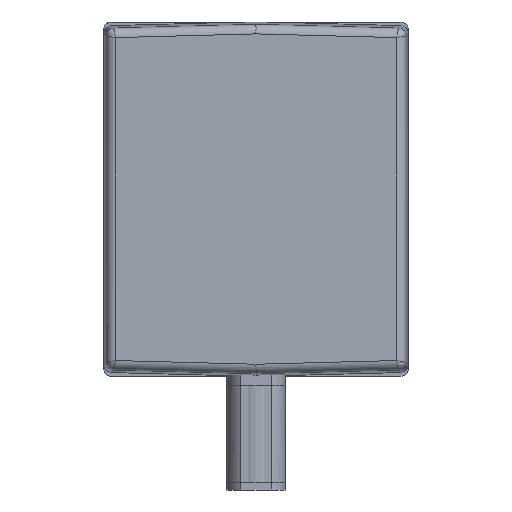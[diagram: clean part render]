
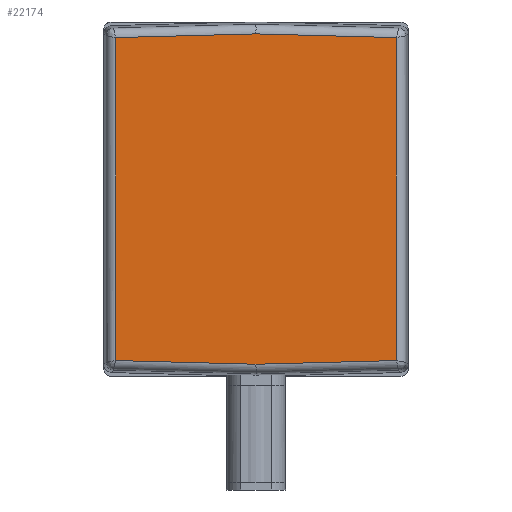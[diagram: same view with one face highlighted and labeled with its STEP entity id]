
A CAD part, front view. The second image highlights one B-rep face of the part: STEP entity #22174.
In plain terms, the highlighted planar face has unit normal (0, -1, 0).
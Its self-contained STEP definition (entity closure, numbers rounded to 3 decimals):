
#7335=DIRECTION('',(0.,0.,-1.));
#7336=VECTOR('',#7335,84.811);
#7337=CARTESIAN_POINT('',(-36.872,0.,42.405));
#7338=LINE('',#7337,#7336);
#7342=DIRECTION('',(-1.,0.,-0.026));
#7343=VECTOR('',#7342,36.885);
#7344=CARTESIAN_POINT('',(0.,0.,43.371));
#7345=LINE('',#7344,#7343);
#7349=DIRECTION('',(-1.,0.,0.026));
#7350=VECTOR('',#7349,36.885);
#7351=CARTESIAN_POINT('',(36.872,0.,42.405));
#7352=LINE('',#7351,#7350);
#7356=DIRECTION('',(0.,0.,1.));
#7357=VECTOR('',#7356,84.811);
#7358=CARTESIAN_POINT('',(36.872,0.,-42.405));
#7359=LINE('',#7358,#7357);
#7363=DIRECTION('',(1.,0.,0.026));
#7364=VECTOR('',#7363,36.885);
#7365=CARTESIAN_POINT('',(0.,0.,-43.371));
#7366=LINE('',#7365,#7364);
#7370=DIRECTION('',(1.,0.,-0.026));
#7371=VECTOR('',#7370,36.885);
#7372=CARTESIAN_POINT('',(-36.872,0.,-42.405));
#7373=LINE('',#7372,#7371);
#14993=CARTESIAN_POINT('',(-36.872,0.,42.405));
#14994=CARTESIAN_POINT('',(-36.872,0.,-42.405));
#14995=VERTEX_POINT('',#14993);
#14996=VERTEX_POINT('',#14994);
#15001=CARTESIAN_POINT('',(0.,0.,43.371));
#15002=VERTEX_POINT('',#15001);
#15003=CARTESIAN_POINT('',(36.872,0.,42.405));
#15004=VERTEX_POINT('',#15003);
#15011=CARTESIAN_POINT('',(36.872,0.,-42.405));
#15012=VERTEX_POINT('',#15011);
#15017=CARTESIAN_POINT('',(0.,0.,-43.371));
#15018=VERTEX_POINT('',#15017);
#22156=CARTESIAN_POINT('',(0.,0.,0.));
#22157=DIRECTION('',(0.,1.,0.));
#22158=DIRECTION('',(1.,0.,0.));
#22159=AXIS2_PLACEMENT_3D('',#22156,#22157,#22158);
#22160=PLANE('',#22159);
#22162=ORIENTED_EDGE('',*,*,#22161,.F.);
#22164=ORIENTED_EDGE('',*,*,#22163,.F.);
#22165=ORIENTED_EDGE('',*,*,#22139,.F.);
#22167=ORIENTED_EDGE('',*,*,#22166,.F.);
#22169=ORIENTED_EDGE('',*,*,#22168,.F.);
#22171=ORIENTED_EDGE('',*,*,#22170,.F.);
#22172=EDGE_LOOP('',(#22162,#22164,#22165,#22167,#22169,#22171));
#22173=FACE_OUTER_BOUND('',#22172,.F.);
#22139=EDGE_CURVE('',#15004,#15002,#7352,.T.);
#22161=EDGE_CURVE('',#14995,#14996,#7338,.T.);
#22163=EDGE_CURVE('',#15002,#14995,#7345,.T.);
#22166=EDGE_CURVE('',#15012,#15004,#7359,.T.);
#22168=EDGE_CURVE('',#15018,#15012,#7366,.T.);
#22170=EDGE_CURVE('',#14996,#15018,#7373,.T.);
#22174=ADVANCED_FACE('',(#22173),#22160,.F.);
